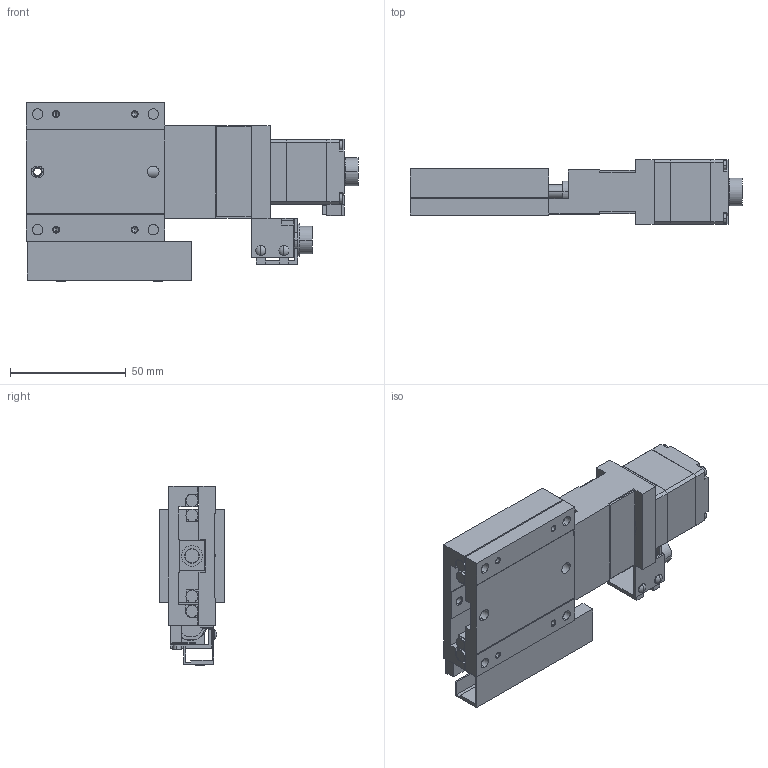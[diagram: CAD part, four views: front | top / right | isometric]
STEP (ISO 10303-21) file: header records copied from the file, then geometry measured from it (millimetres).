
FILE_DESCRIPTION(('STEP AP203'),'1');
FILE_NAME('C:/3D-Trans/3D_PG615M-R□-C+231013.step','2023-10-13T07:18:54',(' '),(' '),'Spatial InterOp 3D',' ',' ');
FILE_SCHEMA(('CONFIG_CONTROL_DESIGN'));
Length unit declared in the file: millimetre
Products named in the file (6): 1; 2; 3; 4; 5; 6
Bounding box: 143.5 x 28 x 77.4 mm (x, y, z)
Volume: 110904.5 mm3; surface area: 52579.1 mm2
Topology: 6 solids, 6 shells, 644 faces, 1654 edges, 1047 vertices
Faces by surface type: plane 390, cylinder 186, cone 64, sphere 4
Entity records: 19612 total; most frequent: DIRECTION 3416, CARTESIAN_POINT 3327, ORIENTED_EDGE 3260, EDGE_CURVE 1630, LINE 1144, VECTOR 1144, AXIS2_PLACEMENT_3D 1136, VERTEX_POINT 1047
